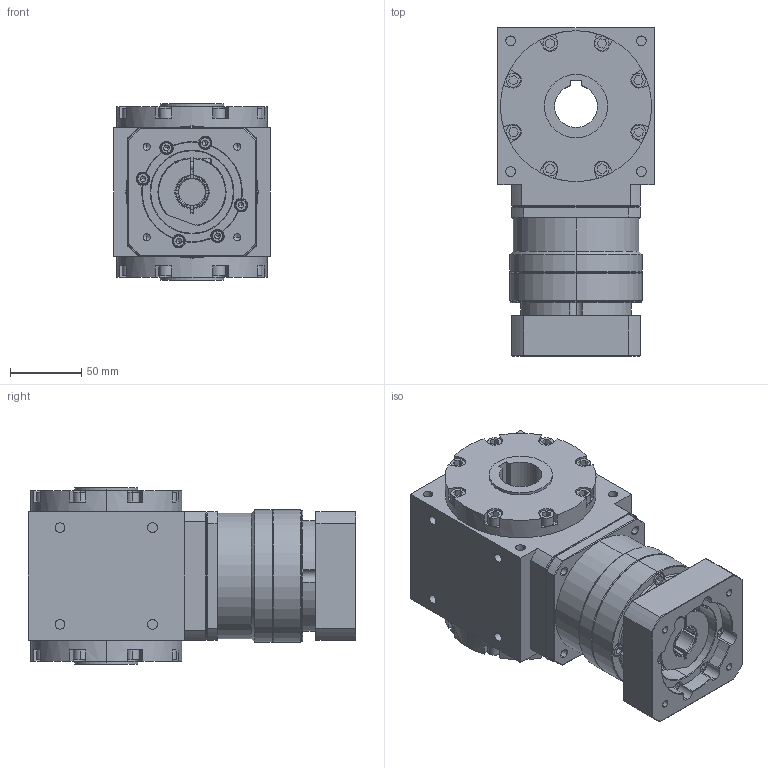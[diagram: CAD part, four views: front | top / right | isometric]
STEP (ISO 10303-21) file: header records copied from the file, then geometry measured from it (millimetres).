
FILE_DESCRIPTION (( 'STEP AP203' ), '1' );
FILE_NAME ('AAW110AS-L1-CR 19-70-90-M6.STEP', '2024-12-24T03:44:15', ( '' ), ( '' ), 'SwSTEP 2.0', 'SolidWorks 2021', '' );
FILE_SCHEMA (( 'CONFIG_CONTROL_DESIGN' ));
Length unit declared in the file: millimetre
Products named in the file (3): AAW110AS-L1-CR 19-70-90-M6; VRB-090-L1-S2-P1 19-70-90-M6; AAW110AS-CR
Assembly tree (2 placements, depth 2):
  AAW110AS-L1-CR 19-70-90-M6
    AAW110AS-CR
    VRB-090-L1-S2-P1 19-70-90-M6
Bounding box: 110 x 230.5 x 124 mm (x, y, z)
Volume: 1952240.8 mm3; surface area: 213701.8 mm2
Topology: 28 solids, 28 shells, 1055 faces, 2577 edges, 1626 vertices
Faces by surface type: plane 525, cylinder 355, cone 149, torus 26
Entity records: 32076 total; most frequent: CARTESIAN_POINT 6592, DIRECTION 5521, ORIENTED_EDGE 5050, EDGE_CURVE 2525, AXIS2_PLACEMENT_3D 2093, VERTEX_POINT 1626, VECTOR 1335, LINE 1335
